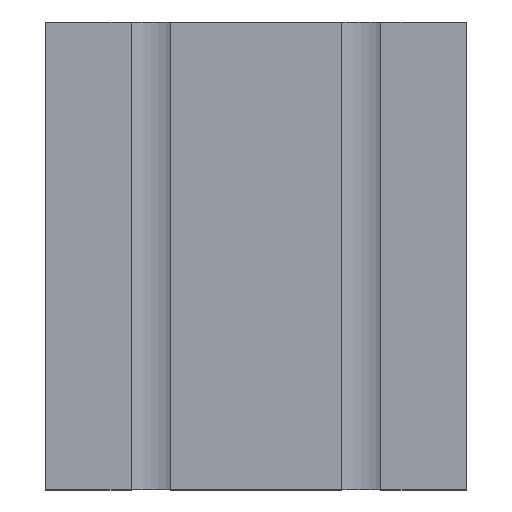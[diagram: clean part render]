
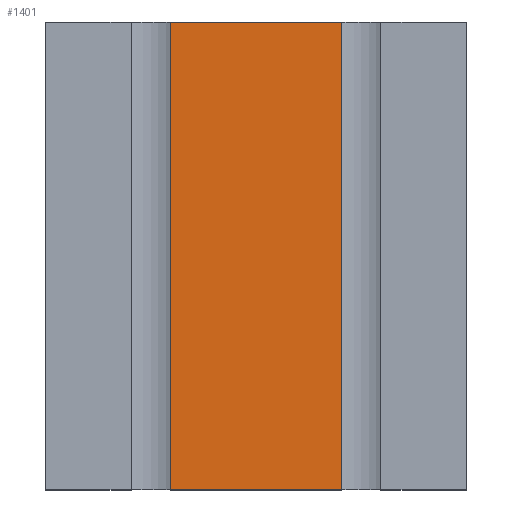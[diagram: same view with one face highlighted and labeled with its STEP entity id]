
A CAD part, top view. The second image highlights one B-rep face of the part: STEP entity #1401.
In plain terms, the highlighted planar face has unit normal (0, 0, 1).
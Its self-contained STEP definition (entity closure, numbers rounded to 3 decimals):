
#78=ORIENTED_EDGE('',*,*,#486,.T.);
#79=ORIENTED_EDGE('',*,*,#487,.T.);
#80=ORIENTED_EDGE('',*,*,#488,.F.);
#81=ORIENTED_EDGE('',*,*,#489,.F.);
#486=EDGE_CURVE('',#690,#691,#830,.T.);
#487=EDGE_CURVE('',#691,#692,#831,.T.);
#488=EDGE_CURVE('',#693,#692,#832,.T.);
#489=EDGE_CURVE('',#690,#693,#833,.T.);
#690=VERTEX_POINT('',#1991);
#691=VERTEX_POINT('',#1992);
#692=VERTEX_POINT('',#1994);
#693=VERTEX_POINT('',#1996);
#830=LINE('',#1990,#998);
#831=LINE('',#1993,#999);
#832=LINE('',#1995,#1000);
#833=LINE('',#1997,#1001);
#998=VECTOR('',#1603,1000.);
#999=VECTOR('',#1604,1000.);
#1000=VECTOR('',#1605,1000.);
#1001=VECTOR('',#1606,1000.);
#1163=EDGE_LOOP('',(#78,#79,#80,#81));
#1255=FACE_BOUND('',#1163,.T.);
#1347=PLANE('',#1486);
#1401=ADVANCED_FACE('',(#1255),#1347,.T.);
#1486=AXIS2_PLACEMENT_3D('',#1989,#1601,#1602);
#1601=DIRECTION('',(0.,0.,1.));
#1602=DIRECTION('',(1.,0.,0.));
#1603=DIRECTION('',(-1.,0.,0.));
#1604=DIRECTION('',(0.,-1.,0.));
#1605=DIRECTION('',(-1.,0.,0.));
#1606=DIRECTION('',(0.,-1.,0.));
#1989=CARTESIAN_POINT('',(45.,100.,22.5));
#1990=CARTESIAN_POINT('',(45.,50.,22.5));
#1991=CARTESIAN_POINT('',(18.3,50.,22.5));
#1992=CARTESIAN_POINT('',(-18.3,50.,22.5));
#1993=CARTESIAN_POINT('',(-18.3,141.863,22.5));
#1994=CARTESIAN_POINT('',(-18.3,-50.,22.5));
#1995=CARTESIAN_POINT('',(45.,-50.,22.5));
#1996=CARTESIAN_POINT('',(18.3,-50.,22.5));
#1997=CARTESIAN_POINT('',(18.3,141.863,22.5));
